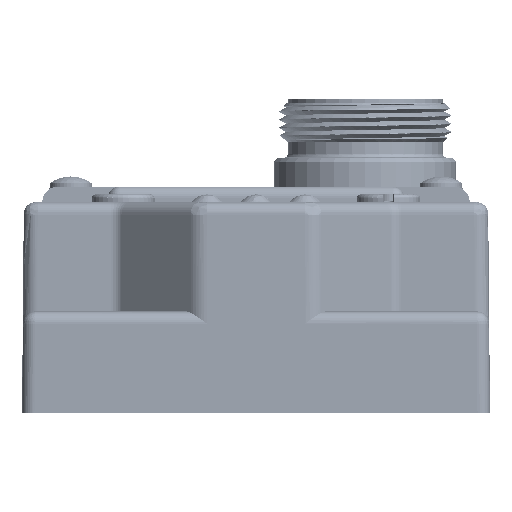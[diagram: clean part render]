
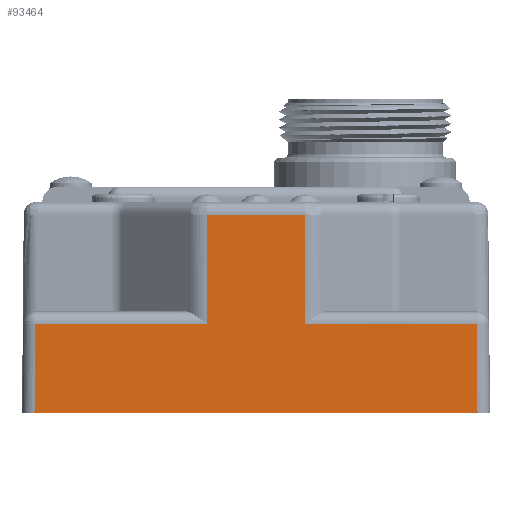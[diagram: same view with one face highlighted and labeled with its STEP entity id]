
A CAD part, left-side view. The second image highlights one B-rep face of the part: STEP entity #93464.
In plain terms, the highlighted planar face has unit normal (-1, 0, 0).
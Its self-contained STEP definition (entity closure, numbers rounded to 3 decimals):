
#89571=CARTESIAN_POINT('',(-86.932,-28.3,-3.1));
#89572=VERTEX_POINT('',#89571);
#89657=CARTESIAN_POINT('',(-86.932,-28.4,-14.5));
#89658=VERTEX_POINT('',#89657);
#89675=CARTESIAN_POINT('',(-86.932,-28.3,-3.1));
#89676=DIRECTION('',(0.0,-0.009,-1.));
#89677=VECTOR('',#89676,11.4);
#89678=LINE('',#89675,#89677);
#89679=EDGE_CURVE('',#89572,#89658,#89678,.T.);
#89689=CARTESIAN_POINT('',(-86.932,-6.272,-3.1));
#89690=VERTEX_POINT('',#89689);
#89718=CARTESIAN_POINT('',(-86.932,-6.272,-3.1));
#89719=DIRECTION('',(0.0,-1.0,0.0));
#89720=VECTOR('',#89719,22.028);
#89721=LINE('',#89718,#89720);
#89722=EDGE_CURVE('',#89690,#89572,#89721,.T.);
#89840=CARTESIAN_POINT('',(-86.932,28.4,-14.5));
#89841=VERTEX_POINT('',#89840);
#89842=CARTESIAN_POINT('',(-86.932,-28.4,-14.5));
#89843=DIRECTION('',(0.0,1.0,0.0));
#89844=VECTOR('',#89843,56.8);
#89845=LINE('',#89842,#89844);
#89846=EDGE_CURVE('',#89658,#89841,#89845,.T.);
#90407=CARTESIAN_POINT('',(-86.932,28.3,-3.1));
#90408=VERTEX_POINT('',#90407);
#90458=CARTESIAN_POINT('',(-86.932,6.272,-3.1));
#90459=VERTEX_POINT('',#90458);
#90460=CARTESIAN_POINT('',(-86.932,28.3,-3.1));
#90461=DIRECTION('',(0.0,-1.0,0.0));
#90462=VECTOR('',#90461,22.028);
#90463=LINE('',#90460,#90462);
#90464=EDGE_CURVE('',#90408,#90459,#90463,.T.);
#90553=CARTESIAN_POINT('',(-86.932,28.4,-14.5));
#90554=DIRECTION('',(0.,-0.009,1.));
#90555=VECTOR('',#90554,11.4);
#90556=LINE('',#90553,#90555);
#90557=EDGE_CURVE('',#89841,#90408,#90556,.T.);
#91464=CARTESIAN_POINT('',(-86.932,-6.272,10.9));
#91465=VERTEX_POINT('',#91464);
#92096=CARTESIAN_POINT('',(-86.932,6.272,10.9));
#92097=VERTEX_POINT('',#92096);
#92098=CARTESIAN_POINT('',(-86.932,6.272,10.9));
#92099=DIRECTION('',(0.0,-1.0,0.0));
#92100=VECTOR('',#92099,12.544);
#92101=LINE('',#92098,#92100);
#92102=EDGE_CURVE('',#92097,#91465,#92101,.T.);
#93268=CARTESIAN_POINT('',(-86.932,6.272,10.9));
#93269=DIRECTION('',(0.0,0.0,-1.0));
#93270=VECTOR('',#93269,14.);
#93271=LINE('',#93268,#93270);
#93272=EDGE_CURVE('',#92097,#90459,#93271,.T.);
#93372=CARTESIAN_POINT('',(-86.932,-6.272,-3.1));
#93373=DIRECTION('',(0.0,0.0,1.0));
#93374=VECTOR('',#93373,14.);
#93375=LINE('',#93372,#93374);
#93376=EDGE_CURVE('',#89690,#91465,#93375,.T.);
#93449=CARTESIAN_POINT('',(-86.932,0.,-1.138));
#93450=DIRECTION('',(1.0,0.0,0.0));
#93451=DIRECTION('',(0.0,0.0,-1.0));
#93452=AXIS2_PLACEMENT_3D('',#93449,#93450,#93451);
#93453=PLANE('',#93452);
#93454=ORIENTED_EDGE('',*,*,#93376,.T.);
#93455=ORIENTED_EDGE('',*,*,#92102,.F.);
#93456=ORIENTED_EDGE('',*,*,#93272,.T.);
#93457=ORIENTED_EDGE('',*,*,#90464,.F.);
#93458=ORIENTED_EDGE('',*,*,#90557,.F.);
#93459=ORIENTED_EDGE('',*,*,#89846,.F.);
#93460=ORIENTED_EDGE('',*,*,#89679,.F.);
#93461=ORIENTED_EDGE('',*,*,#89722,.F.);
#93462=EDGE_LOOP('',(#93454,#93455,#93456,#93457,#93458,#93459,#93460,#93461));
#93463=FACE_OUTER_BOUND('',#93462,.T.);
#93464=ADVANCED_FACE('',(#93463),#93453,.F.);
